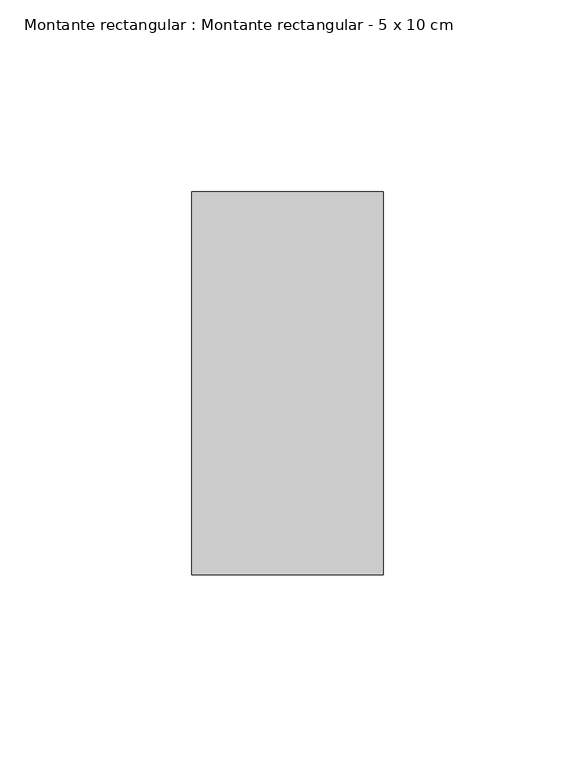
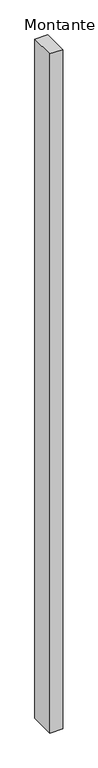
"""IFC4 building model written with IfcOpenShell, lengths in millimetres: member geometry, Montante rectangular : Montante rectangular - 5 x 10 cm."""

from ifc_helpers import new_model, si_unit, frame, origin, place, context, project, spatial, polyline, outline, extrude, source, transform, mapped, element, save


def montante_rectangular_montante_rectangular_5_x_10_cm_70d7f5aa(model_context):
    return source(origin(), model_context, "Body", "SweptSolid", [
        extrude(outline(polyline([(25.0, 50.0), (25.0, -50.0), (-25.0, -50.0), (-25.0, 50.0), (25.0, 50.0)])), frame((0.0, 0.0, -2780.7970613), z_axis=(0.0, 0.0, 1.0), x_axis=(1.0, 0.0, 0.0)), (0.0, 0.0, 1.0), 2780.7970613),
    ])


if __name__ == "__main__":
    model = new_model("IFC4")
    model_context = context("Model", 3, world=origin())
    ifc_project = project(units=[si_unit("LENGTHUNIT", "METRE", prefix="MILLI")], contexts=[model_context])
    site = spatial("IfcSite", under=ifc_project)
    building = spatial("IfcBuilding", under=site)
    placement = place(None, origin())
    montante_rectangular_montante_rectangular_5_x_10_cm_shape = montante_rectangular_montante_rectangular_5_x_10_cm_70d7f5aa(model_context)
    element("IfcMember", 1, ObjectType="Montante rectangular : Montante rectangular - 5 x 10 cm", at=placement, inside=building, context=model_context, shape_type="MappedRepresentation", body=[
        mapped(montante_rectangular_montante_rectangular_5_x_10_cm_shape, transform((0.0, 0.0, 0.0), x_axis=(1.0, 0.0, 0.0), y_axis=(0.0, 1.0, 0.0), z_axis=(0.0, 0.0, 1.0))),
    ])
    save(model, "model.ifc")
